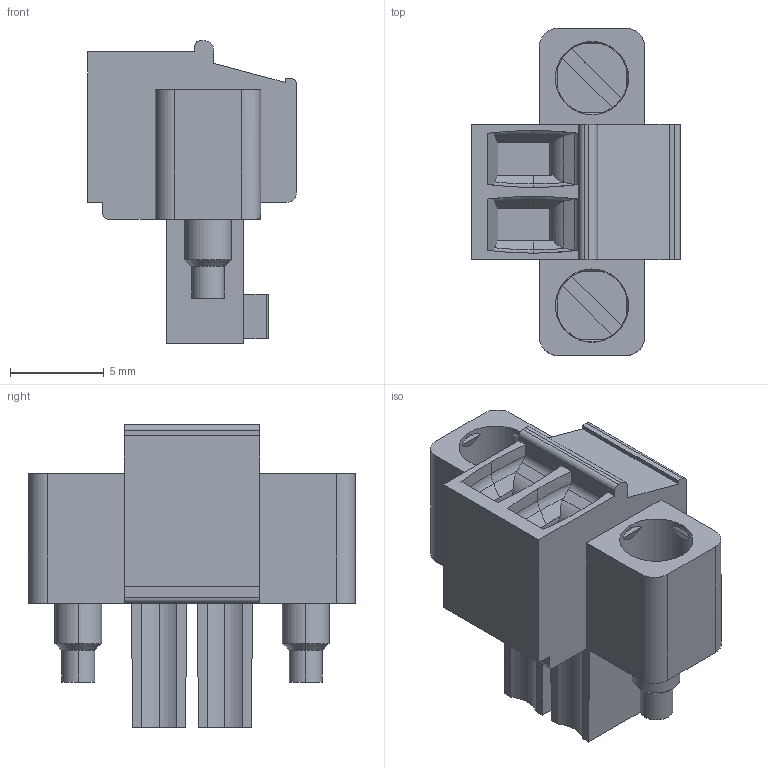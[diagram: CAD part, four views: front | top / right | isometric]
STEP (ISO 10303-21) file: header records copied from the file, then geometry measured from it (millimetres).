
FILE_DESCRIPTION((''),'2;1');
FILE_NAME('CRIO_CONN_2_POS_CMBCN','2007-01-24T',('chrisj'),(''),'PRO/ENGINEER BY PARAMETRIC TECHNOLOGY CORPORATION, 2006080','PRO/ENGINEER BY PARAMETRIC TECHNOLOGY CORPORATION, 2006080','');
FILE_SCHEMA(('AUTOMOTIVE_DESIGN_CC2 { 1 2 10303 214 -1 1 5 2 }'));
Length unit declared in the file: inch
Products named in the file (1): CRIO_CONN_2_POS_CMBCN
Bounding box: 11.1 x 17.4 x 16.1 mm (x, y, z)
Volume: 1051.3 mm3; surface area: 1274.3 mm2
Topology: 1 solids, 1 shells, 262 faces, 689 edges, 454 vertices
Faces by surface type: plane 140, cylinder 98, torus 12, cone 12
Entity records: 8369 total; most frequent: CARTESIAN_POINT 1816, ORIENTED_EDGE 1378, DIRECTION 1329, EDGE_CURVE 689, AXIS2_PLACEMENT_3D 470, VERTEX_POINT 454, VECTOR 389, LINE 389
